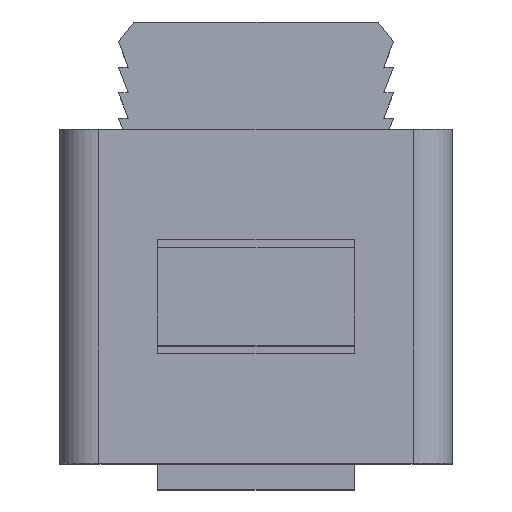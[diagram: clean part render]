
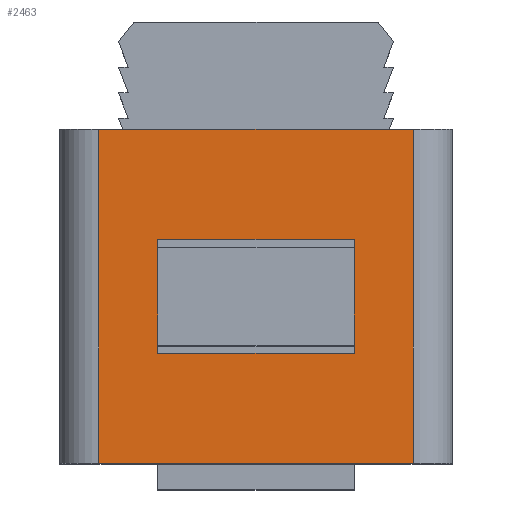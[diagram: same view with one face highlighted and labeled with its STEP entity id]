
A CAD part, top view. The second image highlights one B-rep face of the part: STEP entity #2463.
In plain terms, the highlighted planar face has unit normal (0, 0, 1).
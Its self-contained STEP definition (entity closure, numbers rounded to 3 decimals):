
#19 = VECTOR ( 'NONE', #3452, 1000. ) ;
#43 = EDGE_CURVE ( 'NONE', #1585, #2421, #2305, .T. ) ;
#158 = AXIS2_PLACEMENT_3D ( 'NONE', #2541, #472, #1868 ) ;
#175 = LINE ( 'NONE', #921, #4063 ) ;
#232 = DIRECTION ( 'NONE',  ( 1., 0., 0. ) ) ;
#315 = EDGE_CURVE ( 'NONE', #1838, #2729, #1124, .T. ) ;
#457 = VECTOR ( 'NONE', #3758, 1000. ) ;
#472 = DIRECTION ( 'NONE',  ( 0., 0., 1. ) ) ;
#509 = EDGE_CURVE ( 'NONE', #920, #1838, #3404, .T. ) ;
#796 = EDGE_LOOP ( 'NONE', ( #3166, #978, #1360, #3501 ) ) ;
#920 = VERTEX_POINT ( 'NONE', #2055 ) ;
#921 = CARTESIAN_POINT ( 'NONE',  ( 8., 8.5, 24.8 ) ) ;
#973 = CARTESIAN_POINT ( 'NONE',  ( 5., 8.5, 24.8 ) ) ;
#978 = ORIENTED_EDGE ( 'NONE', *, *, #4076, .T. ) ;
#1124 = LINE ( 'NONE', #2849, #3190 ) ;
#1154 = FACE_BOUND ( 'NONE', #3145, .T. ) ;
#1253 = ORIENTED_EDGE ( 'NONE', *, *, #4337, .T. ) ;
#1360 = ORIENTED_EDGE ( 'NONE', *, *, #43, .T. ) ;
#1364 = LINE ( 'NONE', #2413, #19 ) ;
#1570 = CARTESIAN_POINT ( 'NONE',  ( -5., 8.5, 24.8 ) ) ;
#1585 = VERTEX_POINT ( 'NONE', #4246 ) ;
#1618 = VECTOR ( 'NONE', #4392, 1000. ) ;
#1633 = LINE ( 'NONE', #1570, #1618 ) ;
#1756 = CARTESIAN_POINT ( 'NONE',  ( -8., 8.5, 24.8 ) ) ;
#1819 = CARTESIAN_POINT ( 'NONE',  ( 8., -8.5, 24.8 ) ) ;
#1838 = VERTEX_POINT ( 'NONE', #3137 ) ;
#1868 = DIRECTION ( 'NONE',  ( 1., 0., 0. ) ) ;
#2006 = ORIENTED_EDGE ( 'NONE', *, *, #509, .T. ) ;
#2036 = ORIENTED_EDGE ( 'NONE', *, *, #2982, .T. ) ;
#2055 = CARTESIAN_POINT ( 'NONE',  ( 5., 2.9, 24.8 ) ) ;
#2305 = LINE ( 'NONE', #2643, #2603 ) ;
#2324 = LINE ( 'NONE', #3068, #4054 ) ;
#2413 = CARTESIAN_POINT ( 'NONE',  ( -8., 8.5, 24.8 ) ) ;
#2421 = VERTEX_POINT ( 'NONE', #1819 ) ;
#2463 = ADVANCED_FACE ( 'NONE', ( #3909, #1154 ), #2814, .T. ) ;
#2541 = CARTESIAN_POINT ( 'NONE',  ( -8., 8.5, 24.8 ) ) ;
#2603 = VECTOR ( 'NONE', #232, 1000. ) ;
#2643 = CARTESIAN_POINT ( 'NONE',  ( 0., -8.5, 24.8 ) ) ;
#2717 = CARTESIAN_POINT ( 'NONE',  ( -5., -2.9, 24.8 ) ) ;
#2729 = VERTEX_POINT ( 'NONE', #2717 ) ;
#2750 = LINE ( 'NONE', #1756, #457 ) ;
#2814 = PLANE ( 'NONE',  #158 ) ;
#2849 = CARTESIAN_POINT ( 'NONE',  ( -8., -2.9, 24.8 ) ) ;
#2854 = VERTEX_POINT ( 'NONE', #3236 ) ;
#2982 = EDGE_CURVE ( 'NONE', #4370, #920, #2324, .T. ) ;
#3068 = CARTESIAN_POINT ( 'NONE',  ( -8., 2.9, 24.8 ) ) ;
#3122 = CARTESIAN_POINT ( 'NONE',  ( -8., 8.5, 24.8 ) ) ;
#3137 = CARTESIAN_POINT ( 'NONE',  ( 5., -2.9, 24.8 ) ) ;
#3145 = EDGE_LOOP ( 'NONE', ( #2006, #3815, #1253, #2036 ) ) ;
#3166 = ORIENTED_EDGE ( 'NONE', *, *, #3939, .T. ) ;
#3190 = VECTOR ( 'NONE', #4223, 1000. ) ;
#3236 = CARTESIAN_POINT ( 'NONE',  ( 8., 8.5, 24.8 ) ) ;
#3333 = DIRECTION ( 'NONE',  ( 0., -1., 0. ) ) ;
#3404 = LINE ( 'NONE', #973, #4038 ) ;
#3452 = DIRECTION ( 'NONE',  ( 0., -1., 0. ) ) ;
#3501 = ORIENTED_EDGE ( 'NONE', *, *, #4255, .F. ) ;
#3758 = DIRECTION ( 'NONE',  ( -1., 0., 0. ) ) ;
#3815 = ORIENTED_EDGE ( 'NONE', *, *, #315, .T. ) ;
#3887 = VERTEX_POINT ( 'NONE', #3122 ) ;
#3909 = FACE_OUTER_BOUND ( 'NONE', #796, .T. ) ;
#3939 = EDGE_CURVE ( 'NONE', #2854, #3887, #2750, .T. ) ;
#3978 = CARTESIAN_POINT ( 'NONE',  ( -5., 2.9, 24.8 ) ) ;
#4038 = VECTOR ( 'NONE', #4119, 1000. ) ;
#4054 = VECTOR ( 'NONE', #4074, 1000. ) ;
#4063 = VECTOR ( 'NONE', #3333, 1000. ) ;
#4074 = DIRECTION ( 'NONE',  ( 1., 0., 0. ) ) ;
#4076 = EDGE_CURVE ( 'NONE', #3887, #1585, #1364, .T. ) ;
#4119 = DIRECTION ( 'NONE',  ( 0., -1., 0. ) ) ;
#4223 = DIRECTION ( 'NONE',  ( -1., 0., 0. ) ) ;
#4246 = CARTESIAN_POINT ( 'NONE',  ( -8., -8.5, 24.8 ) ) ;
#4255 = EDGE_CURVE ( 'NONE', #2854, #2421, #175, .T. ) ;
#4337 = EDGE_CURVE ( 'NONE', #2729, #4370, #1633, .T. ) ;
#4370 = VERTEX_POINT ( 'NONE', #3978 ) ;
#4392 = DIRECTION ( 'NONE',  ( 0., 1., 0. ) ) ;
